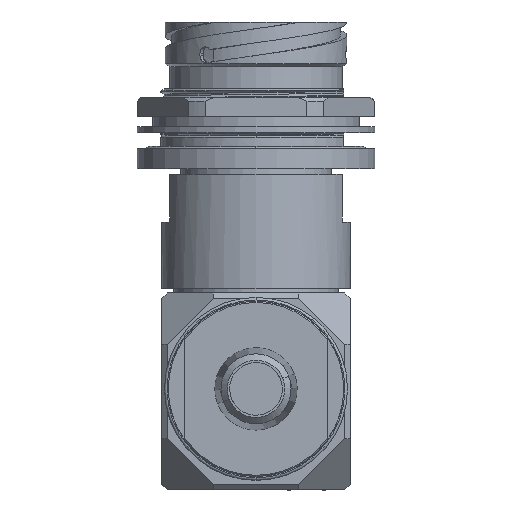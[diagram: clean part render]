
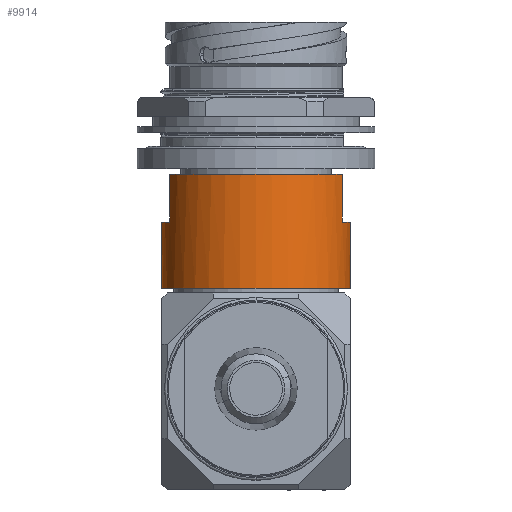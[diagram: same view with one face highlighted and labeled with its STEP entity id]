
A CAD part, front view. The second image highlights one B-rep face of the part: STEP entity #9914.
In plain terms, the highlighted cylindrical face has radius 18.86 mm (diameter 37.719 mm), a partial arc.
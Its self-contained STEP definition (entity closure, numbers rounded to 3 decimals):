
#6 = VERTEX_POINT ( 'NONE', #22409 ) ;
#112 = VECTOR ( 'NONE', #3402, 1000. ) ;
#555 = DIRECTION ( 'NONE',  ( 0., 0., -1. ) ) ;
#738 = ORIENTED_EDGE ( 'NONE', *, *, #18558, .F. ) ;
#1045 = CIRCLE ( 'NONE', #11783, 18.86 ) ;
#1265 = LINE ( 'NONE', #5459, #3394 ) ;
#1692 = VECTOR ( 'NONE', #15275, 1000. ) ;
#2384 = CARTESIAN_POINT ( 'NONE',  ( 17.208, -7.717, -30.328 ) ) ;
#2499 = VERTEX_POINT ( 'NONE', #18347 ) ;
#2597 = CIRCLE ( 'NONE', #5663, 18.86 ) ;
#2630 = VERTEX_POINT ( 'NONE', #17492 ) ;
#2720 = EDGE_CURVE ( 'NONE', #8798, #21599, #21205, .T. ) ;
#3038 = VECTOR ( 'NONE', #7932, 1000. ) ;
#3394 = VECTOR ( 'NONE', #16153, 1000. ) ;
#3402 = DIRECTION ( 'NONE',  ( 0., 0., -1. ) ) ;
#5261 = CIRCLE ( 'NONE', #12926, 18.86 ) ;
#5459 = CARTESIAN_POINT ( 'NONE',  ( -17.208, -7.717, -30.328 ) ) ;
#5600 = AXIS2_PLACEMENT_3D ( 'NONE', #22970, #17569, #6430 ) ;
#5633 = EDGE_CURVE ( 'NONE', #17107, #16246, #16231, .T. ) ;
#5663 = AXIS2_PLACEMENT_3D ( 'NONE', #22645, #20962, #6220 ) ;
#6220 = DIRECTION ( 'NONE',  ( 1., 0., 0. ) ) ;
#6430 = DIRECTION ( 'NONE',  ( 1., 0., 0. ) ) ;
#6611 = EDGE_CURVE ( 'NONE', #13163, #6, #13362, .T. ) ;
#6697 = CIRCLE ( 'NONE', #15131, 18.86 ) ;
#6937 = DIRECTION ( 'NONE',  ( 0., 1., 0. ) ) ;
#7898 = DIRECTION ( 'NONE',  ( 1., 0., 0. ) ) ;
#7932 = DIRECTION ( 'NONE',  ( 0., 0., -1. ) ) ;
#8798 = VERTEX_POINT ( 'NONE', #9016 ) ;
#8855 = EDGE_LOOP ( 'NONE', ( #738, #13816, #10153, #20105, #15825, #11785, #19753, #19767 ) ) ;
#9016 = CARTESIAN_POINT ( 'NONE',  ( 17.208, -7.717, -30.328 ) ) ;
#9405 = EDGE_CURVE ( 'NONE', #2630, #2499, #1265, .T. ) ;
#9620 = CARTESIAN_POINT ( 'NONE',  ( -18.86, 0., -39.853 ) ) ;
#9914 = ADVANCED_FACE ( 'NONE', ( #22852 ), #22736, .T. ) ;
#10153 = ORIENTED_EDGE ( 'NONE', *, *, #20388, .F. ) ;
#11489 = CARTESIAN_POINT ( 'NONE',  ( 0., 0., -30.328 ) ) ;
#11783 = AXIS2_PLACEMENT_3D ( 'NONE', #21667, #12096, #6937 ) ;
#11785 = ORIENTED_EDGE ( 'NONE', *, *, #2720, .F. ) ;
#12096 = DIRECTION ( 'NONE',  ( 0., 0., 1. ) ) ;
#12926 = AXIS2_PLACEMENT_3D ( 'NONE', #11489, #555, #7898 ) ;
#13136 = DIRECTION ( 'NONE',  ( 1., 0., 0. ) ) ;
#13163 = VERTEX_POINT ( 'NONE', #17462 ) ;
#13362 = LINE ( 'NONE', #15030, #1692 ) ;
#13816 = ORIENTED_EDGE ( 'NONE', *, *, #5633, .T. ) ;
#15030 = CARTESIAN_POINT ( 'NONE',  ( 18.859, 0., -30.328 ) ) ;
#15131 = AXIS2_PLACEMENT_3D ( 'NONE', #20435, #22605, #13136 ) ;
#15275 = DIRECTION ( 'NONE',  ( 0., 0., -1. ) ) ;
#15484 = CARTESIAN_POINT ( 'NONE',  ( -18.86, 0., -53.01 ) ) ;
#15825 = ORIENTED_EDGE ( 'NONE', *, *, #23663, .F. ) ;
#16153 = DIRECTION ( 'NONE',  ( 0., 0., 1. ) ) ;
#16231 = LINE ( 'NONE', #23549, #112 ) ;
#16246 = VERTEX_POINT ( 'NONE', #15484 ) ;
#17107 = VERTEX_POINT ( 'NONE', #9620 ) ;
#17462 = CARTESIAN_POINT ( 'NONE',  ( 18.86, 0., -39.853 ) ) ;
#17492 = CARTESIAN_POINT ( 'NONE',  ( -17.209, -7.717, -39.853 ) ) ;
#17569 = DIRECTION ( 'NONE',  ( 0., 0., -1. ) ) ;
#18347 = CARTESIAN_POINT ( 'NONE',  ( -17.209, -7.717, -30.328 ) ) ;
#18558 = EDGE_CURVE ( 'NONE', #17107, #2630, #1045, .T. ) ;
#18981 = CARTESIAN_POINT ( 'NONE',  ( 17.208, -7.717, -39.853 ) ) ;
#19157 = EDGE_CURVE ( 'NONE', #8798, #2499, #5261, .T. ) ;
#19753 = ORIENTED_EDGE ( 'NONE', *, *, #19157, .T. ) ;
#19767 = ORIENTED_EDGE ( 'NONE', *, *, #9405, .F. ) ;
#20105 = ORIENTED_EDGE ( 'NONE', *, *, #6611, .F. ) ;
#20388 = EDGE_CURVE ( 'NONE', #6, #16246, #2597, .T. ) ;
#20435 = CARTESIAN_POINT ( 'NONE',  ( 0., 0., -39.853 ) ) ;
#20962 = DIRECTION ( 'NONE',  ( 0., 0., -1. ) ) ;
#21205 = LINE ( 'NONE', #2384, #3038 ) ;
#21599 = VERTEX_POINT ( 'NONE', #18981 ) ;
#21667 = CARTESIAN_POINT ( 'NONE',  ( 0., 0., -39.853 ) ) ;
#22409 = CARTESIAN_POINT ( 'NONE',  ( 18.86, 0., -53.01 ) ) ;
#22605 = DIRECTION ( 'NONE',  ( 0., 0., 1. ) ) ;
#22645 = CARTESIAN_POINT ( 'NONE',  ( 0., 0., -53.01 ) ) ;
#22736 = CYLINDRICAL_SURFACE ( 'NONE', #5600, 18.86 ) ;
#22852 = FACE_OUTER_BOUND ( 'NONE', #8855, .T. ) ;
#22970 = CARTESIAN_POINT ( 'NONE',  ( 0., 0., -30.328 ) ) ;
#23549 = CARTESIAN_POINT ( 'NONE',  ( -18.86, 0., -30.328 ) ) ;
#23663 = EDGE_CURVE ( 'NONE', #21599, #13163, #6697, .T. ) ;
